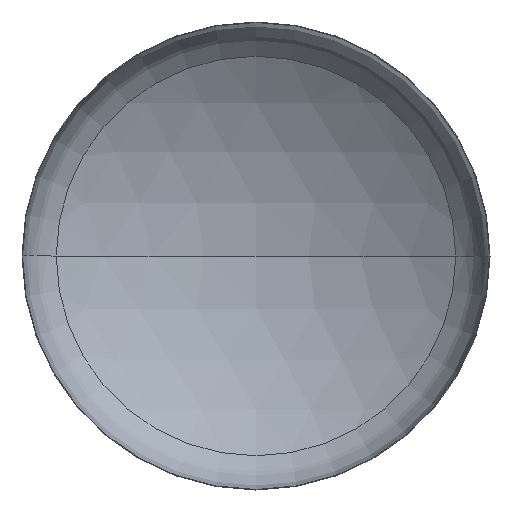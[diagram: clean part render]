
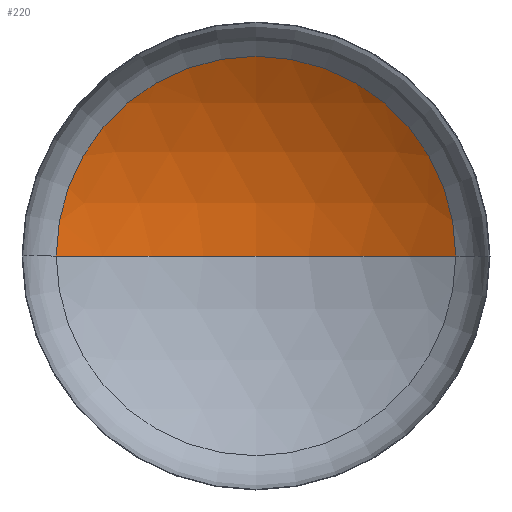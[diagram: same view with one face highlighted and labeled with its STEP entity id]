
A CAD part, front view. The second image highlights one B-rep face of the part: STEP entity #220.
In plain terms, the highlighted spherical face has radius 3600 mm.
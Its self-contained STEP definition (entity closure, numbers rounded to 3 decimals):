
#5 = DIRECTION ( 'NONE',  ( 1., 0., 0. ) ) ;
#11 = AXIS2_PLACEMENT_3D ( 'NONE', #387, #247, #249 ) ;
#12 = AXIS2_PLACEMENT_3D ( 'NONE', #170, #172, #5 ) ;
#18 = DIRECTION ( 'NONE',  ( -1., 0., 0. ) ) ;
#22 = CARTESIAN_POINT ( 'NONE',  ( -1920.826, 607.804, 0. ) ) ;
#23 = EDGE_LOOP ( 'NONE', ( #283, #135, #97 ) ) ;
#50 = AXIS2_PLACEMENT_3D ( 'NONE', #158, #411, #18 ) ;
#97 = ORIENTED_EDGE ( 'NONE', *, *, #336, .T. ) ;
#111 = VERTEX_POINT ( 'NONE', #188 ) ;
#115 = DIRECTION ( 'NONE',  ( 0., 0., 1. ) ) ;
#129 = SPHERICAL_SURFACE ( 'NONE', #50, 3600. ) ;
#130 = VERTEX_POINT ( 'NONE', #307 ) ;
#135 = ORIENTED_EDGE ( 'NONE', *, *, #338, .T. ) ;
#158 = CARTESIAN_POINT ( 'NONE',  ( 0., -2436.934, 0. ) ) ;
#159 = CIRCLE ( 'NONE', #358, 3600. ) ;
#170 = CARTESIAN_POINT ( 'NONE',  ( 0., 607.804, 0. ) ) ;
#172 = DIRECTION ( 'NONE',  ( 0., -1., 0. ) ) ;
#188 = CARTESIAN_POINT ( 'NONE',  ( 0., 1163.066, 0. ) ) ;
#220 = ADVANCED_FACE ( 'NONE', ( #384 ), #129, .F. ) ;
#234 = VERTEX_POINT ( 'NONE', #22 ) ;
#237 = CIRCLE ( 'NONE', #11, 3600. ) ;
#247 = DIRECTION ( 'NONE',  ( 0., 0., -1. ) ) ;
#249 = DIRECTION ( 'NONE',  ( -1., 0., 0. ) ) ;
#283 = ORIENTED_EDGE ( 'NONE', *, *, #378, .F. ) ;
#295 = CIRCLE ( 'NONE', #12, 1920.826 ) ;
#299 = DIRECTION ( 'NONE',  ( 1., 0., 0. ) ) ;
#307 = CARTESIAN_POINT ( 'NONE',  ( 1920.826, 607.804, 0. ) ) ;
#336 = EDGE_CURVE ( 'NONE', #130, #234, #295, .T. ) ;
#338 = EDGE_CURVE ( 'NONE', #111, #130, #237, .T. ) ;
#357 = CARTESIAN_POINT ( 'NONE',  ( 0., -2436.934, 0. ) ) ;
#358 = AXIS2_PLACEMENT_3D ( 'NONE', #357, #115, #299 ) ;
#378 = EDGE_CURVE ( 'NONE', #111, #234, #159, .T. ) ;
#384 = FACE_OUTER_BOUND ( 'NONE', #23, .T. ) ;
#387 = CARTESIAN_POINT ( 'NONE',  ( 0., -2436.934, 0. ) ) ;
#411 = DIRECTION ( 'NONE',  ( 0., 0., -1. ) ) ;
